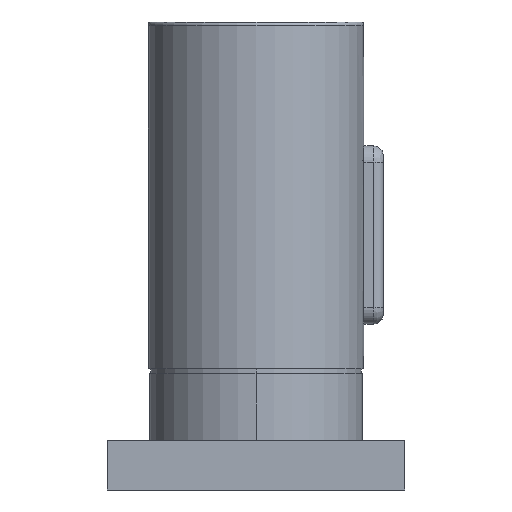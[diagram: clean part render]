
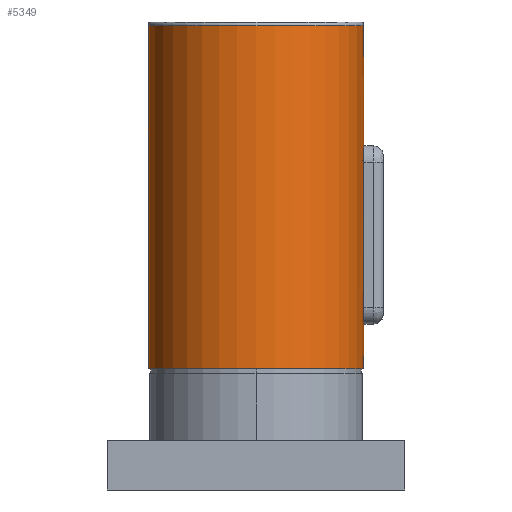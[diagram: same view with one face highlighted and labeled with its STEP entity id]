
A CAD part, left-side view. The second image highlights one B-rep face of the part: STEP entity #5349.
In plain terms, the highlighted cylindrical face has radius 21.75 mm (diameter 43.5 mm), a partial arc.
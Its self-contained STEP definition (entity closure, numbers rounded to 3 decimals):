
#4343=CARTESIAN_POINT('',(0.,0.,0.));
#4344=DIRECTION('',(0.,1.,0.));
#4345=DIRECTION('',(1.,0.,0.));
#4346=AXIS2_PLACEMENT_3D('',#4343,#4344,#4345);
#4375=CARTESIAN_POINT('',(-21.648,42.,-2.1));
#4376=CARTESIAN_POINT('',(-21.648,42.061,-2.1));
#4377=CARTESIAN_POINT('',(-21.649,42.183,
-2.095));
#4378=CARTESIAN_POINT('',(-21.651,42.365,
-2.071));
#4379=CARTESIAN_POINT('',(-21.655,42.543,
-2.031));
#4380=CARTESIAN_POINT('',(-21.66,42.718,
-1.976));
#4381=CARTESIAN_POINT('',(-21.666,42.887,
-1.906));
#4382=CARTESIAN_POINT('',(-21.674,43.051,
-1.821));
#4383=CARTESIAN_POINT('',(-21.682,43.205,
-1.723));
#4384=CARTESIAN_POINT('',(-21.69,43.351,
-1.611));
#4385=CARTESIAN_POINT('',(-21.699,43.487,
-1.487));
#4386=CARTESIAN_POINT('',(-21.708,43.611,
-1.351));
#4387=CARTESIAN_POINT('',(-21.717,43.723,
-1.205));
#4388=CARTESIAN_POINT('',(-21.725,43.821,
-1.051));
#4389=CARTESIAN_POINT('',(-21.732,43.906,
-0.888));
#4390=CARTESIAN_POINT('',(-21.738,43.976,
-0.718));
#4391=CARTESIAN_POINT('',(-21.743,44.031,
-0.543));
#4392=CARTESIAN_POINT('',(-21.747,44.071,
-0.365));
#4393=CARTESIAN_POINT('',(-21.749,44.095,
-0.183));
#4394=CARTESIAN_POINT('',(-21.75,44.1,-0.061));
#4395=CARTESIAN_POINT('',(-21.75,44.1,0.));
#4400=DIRECTION('',(0.,-1.,0.));
#4401=VECTOR('',#4400,30.);
#4402=CARTESIAN_POINT('',(-21.648,42.,-2.1));
#4403=LINE('',#4402,#4401);
#4407=CARTESIAN_POINT('',(-21.75,9.9,0.));
#4408=CARTESIAN_POINT('',(-21.75,9.9,-0.061));
#4409=CARTESIAN_POINT('',(-21.749,9.905,
-0.183));
#4410=CARTESIAN_POINT('',(-21.747,9.929,
-0.365));
#4411=CARTESIAN_POINT('',(-21.743,9.969,
-0.543));
#4412=CARTESIAN_POINT('',(-21.738,10.024,
-0.718));
#4413=CARTESIAN_POINT('',(-21.732,10.094,
-0.888));
#4414=CARTESIAN_POINT('',(-21.725,10.179,
-1.051));
#4415=CARTESIAN_POINT('',(-21.717,10.277,
-1.205));
#4416=CARTESIAN_POINT('',(-21.708,10.389,
-1.351));
#4417=CARTESIAN_POINT('',(-21.699,10.513,
-1.487));
#4418=CARTESIAN_POINT('',(-21.69,10.649,
-1.611));
#4419=CARTESIAN_POINT('',(-21.682,10.795,
-1.723));
#4420=CARTESIAN_POINT('',(-21.674,10.949,
-1.821));
#4421=CARTESIAN_POINT('',(-21.666,11.113,
-1.906));
#4422=CARTESIAN_POINT('',(-21.66,11.282,
-1.976));
#4423=CARTESIAN_POINT('',(-21.655,11.457,
-2.031));
#4424=CARTESIAN_POINT('',(-21.651,11.635,
-2.071));
#4425=CARTESIAN_POINT('',(-21.649,11.817,
-2.095));
#4426=CARTESIAN_POINT('',(-21.648,11.939,-2.1));
#4427=CARTESIAN_POINT('',(-21.648,12.,-2.1));
#4432=DIRECTION('',(0.,1.,0.));
#4433=VECTOR('',#4432,69.25);
#4434=CARTESIAN_POINT('',(21.75,0.,0.));
#4435=LINE('',#4434,#4433);
#4439=CARTESIAN_POINT('',(0.,69.25,0.));
#4440=DIRECTION('',(0.,1.,0.));
#4441=DIRECTION('',(1.,0.,0.));
#4442=AXIS2_PLACEMENT_3D('',#4439,#4440,#4441);
#4479=DIRECTION('',(0.,1.,0.));
#4480=VECTOR('',#4479,25.15);
#4481=CARTESIAN_POINT('',(-21.75,44.1,0.));
#4482=LINE('',#4481,#4480);
#4494=DIRECTION('',(0.,1.,0.));
#4495=VECTOR('',#4494,9.9);
#4496=CARTESIAN_POINT('',(-21.75,0.,0.));
#4497=LINE('',#4496,#4495);
#5233=CARTESIAN_POINT('',(21.75,0.,0.));
#5234=CARTESIAN_POINT('',(-21.75,0.,0.));
#5235=VERTEX_POINT('',#5233);
#5236=VERTEX_POINT('',#5234);
#5241=CARTESIAN_POINT('',(-21.75,69.25,0.));
#5242=CARTESIAN_POINT('',(21.75,69.25,0.));
#5243=VERTEX_POINT('',#5241);
#5244=VERTEX_POINT('',#5242);
#5293=VERTEX_POINT('',#4375);
#5294=VERTEX_POINT('',#4395);
#5295=VERTEX_POINT('',#4407);
#5296=VERTEX_POINT('',#4427);
#5327=CARTESIAN_POINT('',(0.,0.,0.));
#5328=DIRECTION('',(0.,1.,0.));
#5329=DIRECTION('',(1.,0.,0.));
#5330=AXIS2_PLACEMENT_3D('',#5327,#5328,#5329);
#5331=CYLINDRICAL_SURFACE('',#5330,21.75);
#5333=ORIENTED_EDGE('',*,*,#5332,.F.);
#5335=ORIENTED_EDGE('',*,*,#5334,.T.);
#5337=ORIENTED_EDGE('',*,*,#5336,.F.);
#5339=ORIENTED_EDGE('',*,*,#5338,.F.);
#5340=ORIENTED_EDGE('',*,*,#5314,.F.);
#5342=ORIENTED_EDGE('',*,*,#5341,.T.);
#5344=ORIENTED_EDGE('',*,*,#5343,.T.);
#5346=ORIENTED_EDGE('',*,*,#5345,.F.);
#5347=EDGE_LOOP('',(#5333,#5335,#5337,#5339,#5340,#5342,#5344,#5346));
#5348=FACE_OUTER_BOUND('',#5347,.F.);
#4347=CIRCLE('',#4346,21.75);
#4396=B_SPLINE_CURVE_WITH_KNOTS('',3,(#4375,#4376,#4377,#4378,#4379,#4380,#4381,
#4382,#4383,#4384,#4385,#4386,#4387,#4388,#4389,#4390,#4391,#4392,#4393,#4394,
#4395),.UNSPECIFIED.,.F.,.F.,(4,1,1,1,1,1,1,1,1,1,1,1,1,1,1,1,1,1,4),(0.,
0.056,0.111,0.167,0.222,
0.278,0.333,0.389,0.444,0.5,
0.556,0.611,0.667,0.722,
0.778,0.833,0.889,0.944,1.),
.UNSPECIFIED.);
#4428=B_SPLINE_CURVE_WITH_KNOTS('',3,(#4407,#4408,#4409,#4410,#4411,#4412,#4413,
#4414,#4415,#4416,#4417,#4418,#4419,#4420,#4421,#4422,#4423,#4424,#4425,#4426,
#4427),.UNSPECIFIED.,.F.,.F.,(4,1,1,1,1,1,1,1,1,1,1,1,1,1,1,1,1,1,4),(0.,
0.056,0.111,0.167,0.222,
0.278,0.333,0.389,0.444,0.5,
0.556,0.611,0.667,0.722,
0.778,0.833,0.889,0.944,1.),
.UNSPECIFIED.);
#4443=CIRCLE('',#4442,21.75);
#5314=EDGE_CURVE('',#5235,#5236,#4347,.T.);
#5332=EDGE_CURVE('',#5293,#5294,#4396,.T.);
#5334=EDGE_CURVE('',#5293,#5296,#4403,.T.);
#5336=EDGE_CURVE('',#5295,#5296,#4428,.T.);
#5338=EDGE_CURVE('',#5236,#5295,#4497,.T.);
#5341=EDGE_CURVE('',#5235,#5244,#4435,.T.);
#5343=EDGE_CURVE('',#5244,#5243,#4443,.T.);
#5345=EDGE_CURVE('',#5294,#5243,#4482,.T.);
#5349=ADVANCED_FACE('',(#5348),#5331,.T.);
